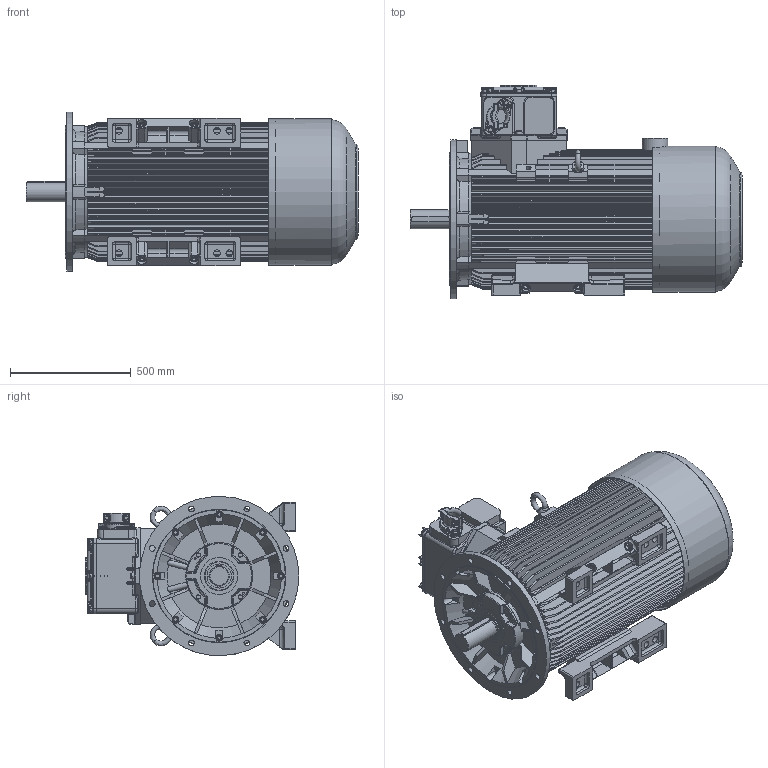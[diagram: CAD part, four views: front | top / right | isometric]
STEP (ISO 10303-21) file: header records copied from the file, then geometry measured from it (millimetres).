
FILE_DESCRIPTION(/* description */ ('Unknown'),/* implementation_level */ '2;1');
FILE_NAME(/* name */ 'EcSTLe(b)315M4(A,B), M(6,8)B-N-IE(2,3)',/* time_stamp */ '2022-04-19T14:27:44+02:00',/* author */ ('Unknown'),/* organization */ ('Unknown'),/* preprocessor_version */ 'ST-DEVELOPER v16.7',/* originating_system */ 'DEX',/* authorisation */ $);
FILE_SCHEMA (('AUTOMOTIVE_DESIGN {1 0 10303 214 3 1 1}'));
Products named in the file (1): EcSTLe(b)315M4(A,B), M(6,8)B-N-IE(2,3)
Bounding box: 1375.49 x 885 x 659.67 mm (x, y, z)
Volume: 307763076 mm3; surface area: 8180711.3 mm2
Topology: 1 solids, 72 shells, 3539 faces, 8953 edges, 5552 vertices
Faces by surface type: plane 1355, cylinder 1144, torus 358, cone 349, bspline 235, sphere 98
Full cylindrical faces by diameter (mm): 2.459 x2, 3 x4, 3.2 x2, 4.5 x1, 6 x1, 6.3 x1, 6.647 x4, 8.16 x4, 8.376 x8, 10 x10, 11 x7, 12 x3, 13.546 x12, 13.835 x14, 14.63 x8, 16 x25, 17.5 x12, 18 x8, 20.319 x4, 20.752 x8, 24 x20, 26 x16, 28 x6, 40 x4, 62 x1, 67 x1, 80 x1, 81.5 x1, 82 x1, 87 x1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
Entity records: 137598 total; most frequent: CARTESIAN_POINT 31332, DIRECTION 17203, ORIENTED_EDGE 16592, EDGE_CURVE 8296, AXIS2_PLACEMENT_3D 6675, VERTEX_POINT 5361, FACE_BOUND 4107, EDGE_LOOP 4080
